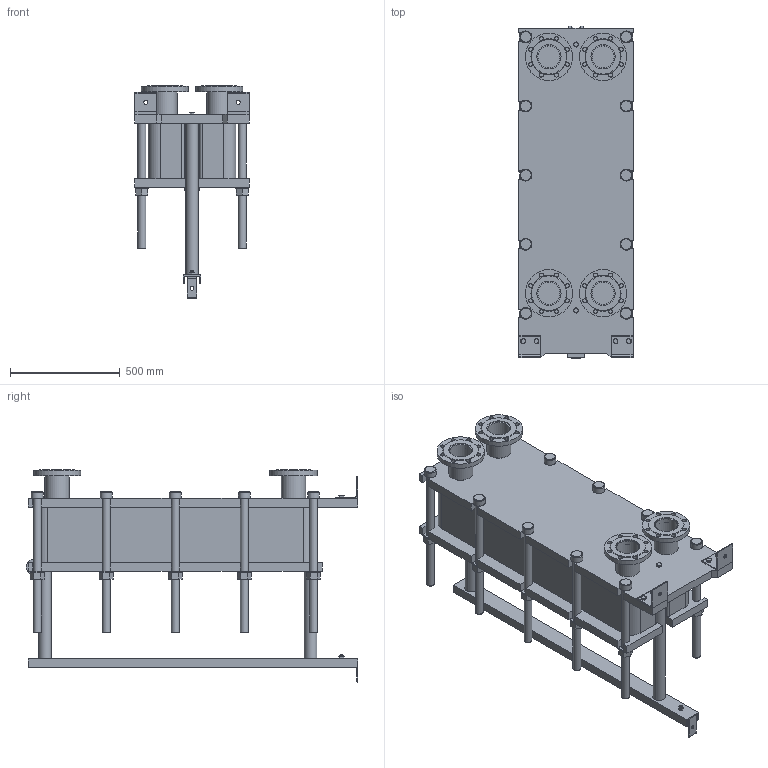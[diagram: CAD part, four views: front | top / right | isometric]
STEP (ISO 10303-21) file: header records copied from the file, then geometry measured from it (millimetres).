
FILE_DESCRIPTION(/* description */ (''),/* implementation_level */ '2;1');
FILE_NAME(/* name */ 'C:\Users\zhuro\Desktop\ENCO\TO\ЭН-04\ЭН-0,5-04-73-1.stp',/* time_stamp */ '2022-06-06T10:50:59+03:00',/* author */ ('zhuro'),/* organization */ (''),/* preprocessor_version */ 'ST-DEVELOPER v18.1',/* originating_system */ 'Autodesk Inventor 2022',/* authorisation */ '');
FILE_SCHEMA (('AUTOMOTIVE_DESIGN { 1 0 10303 214 3 1 1 }'));
Length unit declared in the file: millimetre
Products named in the file (1): ЭН-0,5-04-73-1
Bounding box: 520 x 1510 x 966.5 mm (x, y, z)
Volume: 195615961.6 mm3; surface area: 7761529.4 mm2
Topology: 45 solids, 45 shells, 668 faces, 1611 edges, 1048 vertices
Faces by surface type: plane 457, cylinder 166, cone 39, torus 6
Full cylindrical faces by diameter (mm): 8 x4, 10 x2, 16 x8, 18 x35, 36 x25, 40 x2, 42 x1, 45 x4, 54 x10, 57 x2, 60 x10, 68 x2, 100 x4, 110 x8, 215 x4
Entity records: 23607 total; most frequent: CARTESIAN_POINT 7348, DIRECTION 3371, ORIENTED_EDGE 3142, EDGE_CURVE 1571, AXIS2_PLACEMENT_3D 1199, VERTEX_POINT 1044, LINE 973, VECTOR 973
